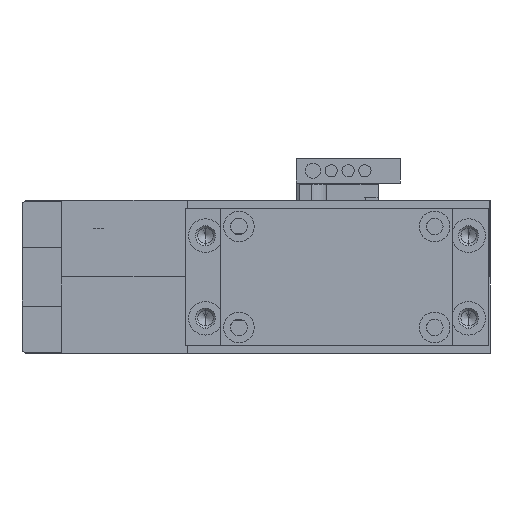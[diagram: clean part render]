
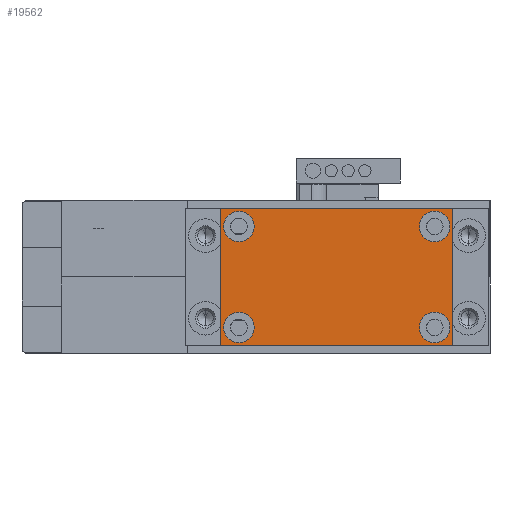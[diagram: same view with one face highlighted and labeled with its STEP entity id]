
A CAD part, front view. The second image highlights one B-rep face of the part: STEP entity #19562.
In plain terms, the highlighted planar face has unit normal (0, -1, 0) as drawn and (0, 0, -1) by its records, which use the part's own axes.
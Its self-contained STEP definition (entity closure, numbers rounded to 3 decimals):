
#369 = DIRECTION ( 'NONE',  ( 0., 0., -1. ) ) ;
#1203 = CARTESIAN_POINT ( 'NONE',  ( 37., 16.5, 0. ) ) ;
#1639 = AXIS2_PLACEMENT_3D ( 'NONE', #2653, #2634, #2624 ) ;
#1707 = EDGE_CURVE ( 'NONE', #16965, #25501, #24997, .T. ) ;
#2038 = CIRCLE ( 'NONE', #1639, 5. ) ;
#2624 = DIRECTION ( 'NONE',  ( -1., 0., 0. ) ) ;
#2634 = DIRECTION ( 'NONE',  ( 0., 0., 1. ) ) ;
#2653 = CARTESIAN_POINT ( 'NONE',  ( -32., 16.5, 0. ) ) ;
#2746 = CARTESIAN_POINT ( 'NONE',  ( -32., -16.5, 0. ) ) ;
#3028 = AXIS2_PLACEMENT_3D ( 'NONE', #24420, #7422, #27273 ) ;
#4233 = ORIENTED_EDGE ( 'NONE', *, *, #10028, .T. ) ;
#4373 = VERTEX_POINT ( 'NONE', #15541 ) ;
#5058 = EDGE_CURVE ( 'NONE', #15048, #13669, #7481, .T. ) ;
#5600 = DIRECTION ( 'NONE',  ( -1., 0., 0. ) ) ;
#5694 = CARTESIAN_POINT ( 'NONE',  ( 32., 16.5, 0. ) ) ;
#6246 = VERTEX_POINT ( 'NONE', #15823 ) ;
#6956 = DIRECTION ( 'NONE',  ( -1., 0., 0. ) ) ;
#7073 = DIRECTION ( 'NONE',  ( 0., 0., 1. ) ) ;
#7198 = CARTESIAN_POINT ( 'NONE',  ( 32., -16.5, 0. ) ) ;
#7422 = DIRECTION ( 'NONE',  ( 0., 0., 1. ) ) ;
#7481 = CIRCLE ( 'NONE', #36099, 5. ) ;
#7737 = ORIENTED_EDGE ( 'NONE', *, *, #26246, .T. ) ;
#7902 = VERTEX_POINT ( 'NONE', #19826 ) ;
#8136 = AXIS2_PLACEMENT_3D ( 'NONE', #15239, #15216, #15206 ) ;
#8555 = DIRECTION ( 'NONE',  ( -1., 0., 0. ) ) ;
#8579 = ORIENTED_EDGE ( 'NONE', *, *, #35520, .T. ) ;
#8992 = EDGE_CURVE ( 'NONE', #18044, #4373, #10820, .T. ) ;
#9615 = CARTESIAN_POINT ( 'NONE',  ( 38., 22.5, 0. ) ) ;
#9971 = AXIS2_PLACEMENT_3D ( 'NONE', #5694, #25581, #8555 ) ;
#10028 = EDGE_CURVE ( 'NONE', #22156, #13980, #20106, .T. ) ;
#10540 = ORIENTED_EDGE ( 'NONE', *, *, #28148, .T. ) ;
#10775 = EDGE_CURVE ( 'NONE', #13669, #15048, #19166, .T. ) ;
#10820 = CIRCLE ( 'NONE', #21908, 5. ) ;
#11242 = CARTESIAN_POINT ( 'NONE',  ( -38., -22.5, 0. ) ) ;
#11681 = CARTESIAN_POINT ( 'NONE',  ( -38., -22.5, 0. ) ) ;
#11811 = DIRECTION ( 'NONE',  ( -1., 0., 0. ) ) ;
#12184 = ORIENTED_EDGE ( 'NONE', *, *, #12310, .T. ) ;
#12310 = EDGE_CURVE ( 'NONE', #7902, #6246, #28835, .T. ) ;
#12894 = VECTOR ( 'NONE', #11811, 1000. ) ;
#13669 = VERTEX_POINT ( 'NONE', #13801 ) ;
#13801 = CARTESIAN_POINT ( 'NONE',  ( 37., -16.5, 0. ) ) ;
#13891 = FACE_OUTER_BOUND ( 'NONE', #23592, .T. ) ;
#13980 = VERTEX_POINT ( 'NONE', #9615 ) ;
#14537 = LINE ( 'NONE', #25529, #28716 ) ;
#15048 = VERTEX_POINT ( 'NONE', #31940 ) ;
#15206 = DIRECTION ( 'NONE',  ( -1., 0., 0. ) ) ;
#15216 = DIRECTION ( 'NONE',  ( 0., 0., 1. ) ) ;
#15239 = CARTESIAN_POINT ( 'NONE',  ( 32., -16.5, 0. ) ) ;
#15353 = AXIS2_PLACEMENT_3D ( 'NONE', #35560, #34751, #34642 ) ;
#15541 = CARTESIAN_POINT ( 'NONE',  ( -37., 16.5, 0. ) ) ;
#15744 = VECTOR ( 'NONE', #33493, 1000. ) ;
#15823 = CARTESIAN_POINT ( 'NONE',  ( -38., -22.5, 0. ) ) ;
#16434 = EDGE_CURVE ( 'NONE', #4373, #18044, #2038, .T. ) ;
#16965 = VERTEX_POINT ( 'NONE', #28656 ) ;
#17515 = CARTESIAN_POINT ( 'NONE',  ( 27., 16.5, 0. ) ) ;
#17744 = ORIENTED_EDGE ( 'NONE', *, *, #10775, .T. ) ;
#18044 = VERTEX_POINT ( 'NONE', #18646 ) ;
#18646 = CARTESIAN_POINT ( 'NONE',  ( -27., 16.5, 0. ) ) ;
#19096 = EDGE_LOOP ( 'NONE', ( #35144, #29870 ) ) ;
#19166 = CIRCLE ( 'NONE', #8136, 5. ) ;
#19562 = ADVANCED_FACE ( 'NONE', ( #13891, #28061, #28948, #35197, #20571 ), #25860, .T. ) ;
#19826 = CARTESIAN_POINT ( 'NONE',  ( 38., -22.5, 0. ) ) ;
#20101 = CIRCLE ( 'NONE', #23301, 5. ) ;
#20106 = LINE ( 'NONE', #26280, #33952 ) ;
#20266 = DIRECTION ( 'NONE',  ( -1., 0., 0. ) ) ;
#20571 = FACE_BOUND ( 'NONE', #35532, .T. ) ;
#21331 = EDGE_LOOP ( 'NONE', ( #8579, #22867 ) ) ;
#21908 = AXIS2_PLACEMENT_3D ( 'NONE', #34077, #33960, #33837 ) ;
#22156 = VERTEX_POINT ( 'NONE', #30038 ) ;
#22634 = DIRECTION ( 'NONE',  ( 0., 0., 1. ) ) ;
#22867 = ORIENTED_EDGE ( 'NONE', *, *, #1707, .T. ) ;
#23046 = VERTEX_POINT ( 'NONE', #17515 ) ;
#23220 = VERTEX_POINT ( 'NONE', #1203 ) ;
#23301 = AXIS2_PLACEMENT_3D ( 'NONE', #2746, #22634, #5600 ) ;
#23592 = EDGE_LOOP ( 'NONE', ( #10540, #12184, #7737, #4233 ) ) ;
#24209 = LINE ( 'NONE', #30826, #15744 ) ;
#24420 = CARTESIAN_POINT ( 'NONE',  ( 32., 16.5, 0. ) ) ;
#24997 = CIRCLE ( 'NONE', #15353, 5. ) ;
#24999 = AXIS2_PLACEMENT_3D ( 'NONE', #11681, #369, #20266 ) ;
#25373 = EDGE_LOOP ( 'NONE', ( #27452, #17744 ) ) ;
#25501 = VERTEX_POINT ( 'NONE', #30299 ) ;
#25529 = CARTESIAN_POINT ( 'NONE',  ( -38., -22.5, 0. ) ) ;
#25581 = DIRECTION ( 'NONE',  ( 0., 0., 1. ) ) ;
#25712 = EDGE_CURVE ( 'NONE', #23220, #23046, #28752, .T. ) ;
#25860 = PLANE ( 'NONE',  #24999 ) ;
#26234 = DIRECTION ( 'NONE',  ( 1., 0., 0. ) ) ;
#26246 = EDGE_CURVE ( 'NONE', #6246, #22156, #14537, .T. ) ;
#26280 = CARTESIAN_POINT ( 'NONE',  ( -38., 22.5, 0. ) ) ;
#27273 = DIRECTION ( 'NONE',  ( -1., 0., 0. ) ) ;
#27452 = ORIENTED_EDGE ( 'NONE', *, *, #5058, .T. ) ;
#28061 = FACE_BOUND ( 'NONE', #25373, .T. ) ;
#28148 = EDGE_CURVE ( 'NONE', #13980, #7902, #24209, .T. ) ;
#28331 = DIRECTION ( 'NONE',  ( 0., 1., 0. ) ) ;
#28656 = CARTESIAN_POINT ( 'NONE',  ( -27., -16.5, 0. ) ) ;
#28716 = VECTOR ( 'NONE', #28331, 1000. ) ;
#28752 = CIRCLE ( 'NONE', #9971, 5. ) ;
#28835 = LINE ( 'NONE', #11242, #12894 ) ;
#28948 = FACE_BOUND ( 'NONE', #21331, .T. ) ;
#29870 = ORIENTED_EDGE ( 'NONE', *, *, #25712, .T. ) ;
#30038 = CARTESIAN_POINT ( 'NONE',  ( -38., 22.5, 0. ) ) ;
#30299 = CARTESIAN_POINT ( 'NONE',  ( -37., -16.5, 0. ) ) ;
#30826 = CARTESIAN_POINT ( 'NONE',  ( 38., -22.5, 0. ) ) ;
#31940 = CARTESIAN_POINT ( 'NONE',  ( 27., -16.5, 0. ) ) ;
#32393 = CIRCLE ( 'NONE', #3028, 5. ) ;
#32682 = EDGE_CURVE ( 'NONE', #23046, #23220, #32393, .T. ) ;
#33493 = DIRECTION ( 'NONE',  ( 0., -1., 0. ) ) ;
#33837 = DIRECTION ( 'NONE',  ( -1., 0., 0. ) ) ;
#33952 = VECTOR ( 'NONE', #26234, 1000. ) ;
#33960 = DIRECTION ( 'NONE',  ( 0., 0., 1. ) ) ;
#34077 = CARTESIAN_POINT ( 'NONE',  ( -32., 16.5, 0. ) ) ;
#34642 = DIRECTION ( 'NONE',  ( -1., 0., 0. ) ) ;
#34751 = DIRECTION ( 'NONE',  ( 0., 0., 1. ) ) ;
#35144 = ORIENTED_EDGE ( 'NONE', *, *, #32682, .T. ) ;
#35197 = FACE_BOUND ( 'NONE', #19096, .T. ) ;
#35520 = EDGE_CURVE ( 'NONE', #25501, #16965, #20101, .T. ) ;
#35532 = EDGE_LOOP ( 'NONE', ( #35617, #36206 ) ) ;
#35560 = CARTESIAN_POINT ( 'NONE',  ( -32., -16.5, 0. ) ) ;
#35617 = ORIENTED_EDGE ( 'NONE', *, *, #16434, .T. ) ;
#36099 = AXIS2_PLACEMENT_3D ( 'NONE', #7198, #7073, #6956 ) ;
#36206 = ORIENTED_EDGE ( 'NONE', *, *, #8992, .T. ) ;
